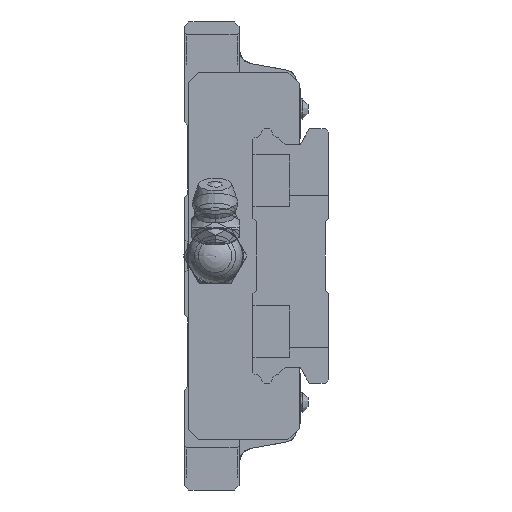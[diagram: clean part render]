
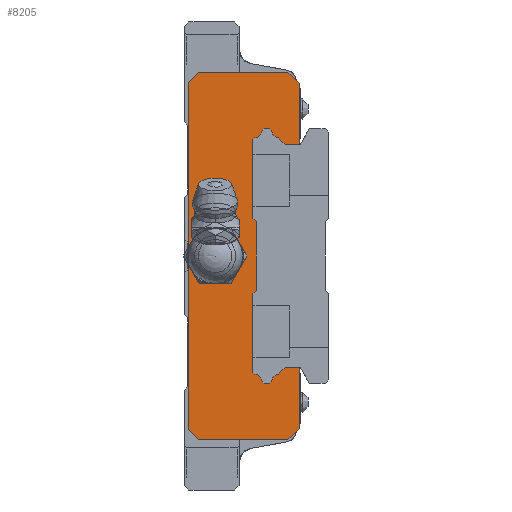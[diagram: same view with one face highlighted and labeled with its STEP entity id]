
A CAD part, left-side view. The second image highlights one B-rep face of the part: STEP entity #8205.
In plain terms, the highlighted planar face has unit normal (-1, 0, 0).
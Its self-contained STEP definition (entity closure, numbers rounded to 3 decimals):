
#85=LINE('',#12820,#483);
#91=LINE('',#12833,#489);
#98=LINE('',#12849,#496);
#99=LINE('',#12851,#497);
#100=LINE('',#12853,#498);
#101=LINE('',#12855,#499);
#102=LINE('',#12857,#500);
#103=LINE('',#12859,#501);
#104=LINE('',#12861,#502);
#105=LINE('',#12863,#503);
#106=LINE('',#12864,#504);
#107=LINE('',#12866,#505);
#108=LINE('',#12870,#506);
#109=LINE('',#12872,#507);
#110=LINE('',#12874,#508);
#111=LINE('',#12878,#509);
#112=LINE('',#12880,#510);
#113=LINE('',#12882,#511);
#114=LINE('',#12884,#512);
#115=LINE('',#12886,#513);
#116=LINE('',#12888,#514);
#117=LINE('',#12890,#515);
#118=LINE('',#12894,#516);
#119=LINE('',#12896,#517);
#120=LINE('',#12898,#518);
#121=LINE('',#12902,#519);
#483=VECTOR('',#10054,1000.);
#489=VECTOR('',#10062,1000.);
#496=VECTOR('',#10073,1000.);
#497=VECTOR('',#10074,1000.);
#498=VECTOR('',#10075,1000.);
#499=VECTOR('',#10076,1000.);
#500=VECTOR('',#10077,1000.);
#501=VECTOR('',#10078,1000.);
#502=VECTOR('',#10079,1000.);
#503=VECTOR('',#10080,1000.);
#504=VECTOR('',#10081,1000.);
#505=VECTOR('',#10082,1000.);
#506=VECTOR('',#10085,1000.);
#507=VECTOR('',#10086,1000.);
#508=VECTOR('',#10087,1000.);
#509=VECTOR('',#10090,1000.);
#510=VECTOR('',#10091,1000.);
#511=VECTOR('',#10092,1000.);
#512=VECTOR('',#10093,1000.);
#513=VECTOR('',#10094,1000.);
#514=VECTOR('',#10095,1000.);
#515=VECTOR('',#10096,1000.);
#516=VECTOR('',#10099,1000.);
#517=VECTOR('',#10100,1000.);
#518=VECTOR('',#10101,1000.);
#519=VECTOR('',#10104,1000.);
#864=PLANE('',#8827);
#1405=CIRCLE('',#8828,3.);
#1406=CIRCLE('',#8829,1.19);
#1407=CIRCLE('',#8830,1.19);
#1408=CIRCLE('',#8831,1.19);
#1409=CIRCLE('',#8832,1.19);
#2107=ORIENTED_EDGE('',*,*,#4013,.T.);
#2108=ORIENTED_EDGE('',*,*,#4014,.T.);
#2109=ORIENTED_EDGE('',*,*,#4000,.F.);
#2110=ORIENTED_EDGE('',*,*,#4015,.F.);
#2111=ORIENTED_EDGE('',*,*,#4016,.F.);
#2112=ORIENTED_EDGE('',*,*,#4017,.F.);
#2113=ORIENTED_EDGE('',*,*,#4018,.F.);
#2114=ORIENTED_EDGE('',*,*,#4019,.F.);
#2115=ORIENTED_EDGE('',*,*,#4020,.F.);
#2116=ORIENTED_EDGE('',*,*,#4021,.F.);
#2117=ORIENTED_EDGE('',*,*,#4006,.F.);
#2118=ORIENTED_EDGE('',*,*,#4022,.T.);
#2119=ORIENTED_EDGE('',*,*,#4023,.T.);
#2120=ORIENTED_EDGE('',*,*,#4024,.F.);
#2121=ORIENTED_EDGE('',*,*,#4025,.T.);
#2122=ORIENTED_EDGE('',*,*,#4026,.T.);
#2123=ORIENTED_EDGE('',*,*,#4027,.T.);
#2124=ORIENTED_EDGE('',*,*,#4028,.F.);
#2125=ORIENTED_EDGE('',*,*,#4029,.T.);
#2126=ORIENTED_EDGE('',*,*,#4030,.T.);
#2127=ORIENTED_EDGE('',*,*,#4031,.T.);
#2128=ORIENTED_EDGE('',*,*,#4032,.T.);
#2129=ORIENTED_EDGE('',*,*,#4033,.T.);
#2130=ORIENTED_EDGE('',*,*,#4034,.T.);
#2131=ORIENTED_EDGE('',*,*,#4035,.T.);
#2132=ORIENTED_EDGE('',*,*,#4036,.F.);
#2133=ORIENTED_EDGE('',*,*,#4037,.T.);
#2134=ORIENTED_EDGE('',*,*,#4038,.T.);
#2135=ORIENTED_EDGE('',*,*,#4039,.T.);
#2136=ORIENTED_EDGE('',*,*,#4040,.F.);
#2137=ORIENTED_EDGE('',*,*,#4041,.T.);
#4000=EDGE_CURVE('',#4967,#4961,#85,.T.);
#4006=EDGE_CURVE('',#4972,#4974,#91,.T.);
#4013=EDGE_CURVE('',#4980,#4980,#1405,.T.);
#4014=EDGE_CURVE('',#4981,#4961,#98,.T.);
#4015=EDGE_CURVE('',#4982,#4967,#99,.T.);
#4016=EDGE_CURVE('',#4983,#4982,#100,.T.);
#4017=EDGE_CURVE('',#4984,#4983,#101,.T.);
#4018=EDGE_CURVE('',#4985,#4984,#102,.T.);
#4019=EDGE_CURVE('',#4986,#4985,#103,.T.);
#4020=EDGE_CURVE('',#4987,#4986,#104,.T.);
#4021=EDGE_CURVE('',#4974,#4987,#105,.T.);
#4022=EDGE_CURVE('',#4972,#4988,#106,.T.);
#4023=EDGE_CURVE('',#4988,#4989,#107,.T.);
#4024=EDGE_CURVE('',#4990,#4989,#1406,.T.);
#4025=EDGE_CURVE('',#4990,#4991,#108,.T.);
#4026=EDGE_CURVE('',#4991,#4992,#109,.T.);
#4027=EDGE_CURVE('',#4992,#4993,#110,.T.);
#4028=EDGE_CURVE('',#4994,#4993,#1407,.T.);
#4029=EDGE_CURVE('',#4994,#4995,#111,.T.);
#4030=EDGE_CURVE('',#4995,#4996,#112,.T.);
#4031=EDGE_CURVE('',#4996,#4997,#113,.T.);
#4032=EDGE_CURVE('',#4997,#4998,#114,.T.);
#4033=EDGE_CURVE('',#4998,#4999,#115,.T.);
#4034=EDGE_CURVE('',#4999,#5000,#116,.T.);
#4035=EDGE_CURVE('',#5000,#5001,#117,.T.);
#4036=EDGE_CURVE('',#5002,#5001,#1408,.T.);
#4037=EDGE_CURVE('',#5002,#5003,#118,.T.);
#4038=EDGE_CURVE('',#5003,#5004,#119,.T.);
#4039=EDGE_CURVE('',#5004,#5005,#120,.T.);
#4040=EDGE_CURVE('',#5006,#5005,#1409,.T.);
#4041=EDGE_CURVE('',#5006,#4981,#121,.T.);
#4961=VERTEX_POINT('',#12807);
#4967=VERTEX_POINT('',#12819);
#4972=VERTEX_POINT('',#12831);
#4974=VERTEX_POINT('',#12834);
#4980=VERTEX_POINT('',#12848);
#4981=VERTEX_POINT('',#12850);
#4982=VERTEX_POINT('',#12852);
#4983=VERTEX_POINT('',#12854);
#4984=VERTEX_POINT('',#12856);
#4985=VERTEX_POINT('',#12858);
#4986=VERTEX_POINT('',#12860);
#4987=VERTEX_POINT('',#12862);
#4988=VERTEX_POINT('',#12865);
#4989=VERTEX_POINT('',#12867);
#4990=VERTEX_POINT('',#12869);
#4991=VERTEX_POINT('',#12871);
#4992=VERTEX_POINT('',#12873);
#4993=VERTEX_POINT('',#12875);
#4994=VERTEX_POINT('',#12877);
#4995=VERTEX_POINT('',#12879);
#4996=VERTEX_POINT('',#12881);
#4997=VERTEX_POINT('',#12883);
#4998=VERTEX_POINT('',#12885);
#4999=VERTEX_POINT('',#12887);
#5000=VERTEX_POINT('',#12889);
#5001=VERTEX_POINT('',#12891);
#5002=VERTEX_POINT('',#12893);
#5003=VERTEX_POINT('',#12895);
#5004=VERTEX_POINT('',#12897);
#5005=VERTEX_POINT('',#12899);
#5006=VERTEX_POINT('',#12901);
#5821=EDGE_LOOP('',(#2107));
#5822=EDGE_LOOP('',(#2108,#2109,#2110,#2111,#2112,#2113,#2114,#2115,#2116,
#2117,#2118,#2119,#2120,#2121,#2122,#2123,#2124,#2125,#2126,#2127,#2128,
#2129,#2130,#2131,#2132,#2133,#2134,#2135,#2136,#2137));
#7006=FACE_BOUND('',#5821,.T.);
#7007=FACE_BOUND('',#5822,.T.);
#8205=ADVANCED_FACE('',(#7006,#7007),#864,.F.);
#8827=AXIS2_PLACEMENT_3D('',#12846,#10069,#10070);
#8828=AXIS2_PLACEMENT_3D('',#12847,#10071,#10072);
#8829=AXIS2_PLACEMENT_3D('',#12868,#10083,#10084);
#8830=AXIS2_PLACEMENT_3D('',#12876,#10088,#10089);
#8831=AXIS2_PLACEMENT_3D('',#12892,#10097,#10098);
#8832=AXIS2_PLACEMENT_3D('',#12900,#10102,#10103);
#10054=DIRECTION('',(0.,0.,-1.));
#10062=DIRECTION('',(0.,0.,-1.));
#10069=DIRECTION('',(1.,0.,0.));
#10070=DIRECTION('',(0.,0.,-1.));
#10071=DIRECTION('',(1.,0.,0.));
#10072=DIRECTION('',(0.,0.,-1.));
#10073=DIRECTION('',(0.,-1.,0.));
#10074=DIRECTION('',(0.,-0.707,-0.707));
#10075=DIRECTION('',(0.,-1.,0.));
#10076=DIRECTION('',(0.,-0.707,0.707));
#10077=DIRECTION('',(0.,0.,1.));
#10078=DIRECTION('',(0.,0.707,0.707));
#10079=DIRECTION('',(0.,1.,0.));
#10080=DIRECTION('',(0.,0.707,-0.707));
#10081=DIRECTION('',(0.,1.,0.));
#10082=DIRECTION('',(0.,0.707,-0.707));
#10083=DIRECTION('',(1.,0.,0.));
#10084=DIRECTION('',(0.,0.,-1.));
#10085=DIRECTION('',(0.,0.707,-0.707));
#10086=DIRECTION('',(0.,1.,0.));
#10087=DIRECTION('',(0.,0.707,0.707));
#10088=DIRECTION('',(1.,0.,0.));
#10089=DIRECTION('',(0.,0.,-1.));
#10090=DIRECTION('',(0.,0.707,0.707));
#10091=DIRECTION('',(0.,0.,1.));
#10092=DIRECTION('',(0.,-0.707,0.707));
#10093=DIRECTION('',(0.,0.,1.));
#10094=DIRECTION('',(0.,0.707,0.707));
#10095=DIRECTION('',(0.,0.,1.));
#10096=DIRECTION('',(0.,-0.707,0.707));
#10097=DIRECTION('',(1.,0.,0.));
#10098=DIRECTION('',(0.,0.,-1.));
#10099=DIRECTION('',(0.,-0.707,0.707));
#10100=DIRECTION('',(0.,-1.,0.));
#10101=DIRECTION('',(0.,-0.707,-0.707));
#10102=DIRECTION('',(1.,0.,0.));
#10103=DIRECTION('',(0.,0.,-1.));
#10104=DIRECTION('',(0.,-0.707,-0.707));
#12807=CARTESIAN_POINT('',(-28.6,1.31,16.2));
#12819=CARTESIAN_POINT('',(-28.6,1.31,25.04));
#12820=CARTESIAN_POINT('',(-28.6,1.31,25.04));
#12831=CARTESIAN_POINT('',(-28.6,1.31,-16.2));
#12833=CARTESIAN_POINT('',(-28.6,1.31,25.04));
#12834=CARTESIAN_POINT('',(-28.6,1.31,-25.04));
#12846=CARTESIAN_POINT('',(-28.6,0.,0.));
#12847=CARTESIAN_POINT('',(-28.6,13.5,0.));
#12848=CARTESIAN_POINT('',(-28.6,13.5,-3.));
#12849=CARTESIAN_POINT('',(-28.6,3.32,16.2));
#12850=CARTESIAN_POINT('',(-28.6,3.32,16.2));
#12851=CARTESIAN_POINT('',(-28.6,2.91,26.64));
#12852=CARTESIAN_POINT('',(-28.6,2.91,26.64));
#12853=CARTESIAN_POINT('',(-28.6,15.85,26.64));
#12854=CARTESIAN_POINT('',(-28.6,15.85,26.64));
#12855=CARTESIAN_POINT('',(-28.6,17.35,25.14));
#12856=CARTESIAN_POINT('',(-28.6,17.35,25.14));
#12857=CARTESIAN_POINT('',(-28.6,17.35,-25.14));
#12858=CARTESIAN_POINT('',(-28.6,17.35,-25.14));
#12859=CARTESIAN_POINT('',(-28.6,15.85,-26.64));
#12860=CARTESIAN_POINT('',(-28.6,15.85,-26.64));
#12861=CARTESIAN_POINT('',(-28.6,2.91,-26.64));
#12862=CARTESIAN_POINT('',(-28.6,2.91,-26.64));
#12863=CARTESIAN_POINT('',(-28.6,1.31,-25.04));
#12864=CARTESIAN_POINT('',(-28.6,1.117,-16.2));
#12865=CARTESIAN_POINT('',(-28.6,3.32,-16.2));
#12866=CARTESIAN_POINT('',(-28.6,3.32,-16.2));
#12867=CARTESIAN_POINT('',(-28.6,4.276,-17.156));
#12868=CARTESIAN_POINT('',(-28.6,4.153,-18.34));
#12869=CARTESIAN_POINT('',(-28.6,5.337,-18.217));
#12870=CARTESIAN_POINT('',(-28.6,5.337,-18.217));
#12871=CARTESIAN_POINT('',(-28.6,5.62,-18.5));
#12872=CARTESIAN_POINT('',(-28.6,5.62,-18.5));
#12873=CARTESIAN_POINT('',(-28.6,6.385,-18.5));
#12874=CARTESIAN_POINT('',(-28.6,6.385,-18.5));
#12875=CARTESIAN_POINT('',(-28.6,6.663,-18.222));
#12876=CARTESIAN_POINT('',(-28.6,7.847,-18.34));
#12877=CARTESIAN_POINT('',(-28.6,7.729,-17.156));
#12878=CARTESIAN_POINT('',(-28.6,7.729,-17.156));
#12879=CARTESIAN_POINT('',(-28.6,8.,-16.885));
#12880=CARTESIAN_POINT('',(-28.6,8.,-16.885));
#12881=CARTESIAN_POINT('',(-28.6,8.,-5.5));
#12882=CARTESIAN_POINT('',(-28.6,8.,-5.5));
#12883=CARTESIAN_POINT('',(-28.6,7.5,-5.));
#12884=CARTESIAN_POINT('',(-28.6,7.5,-5.));
#12885=CARTESIAN_POINT('',(-28.6,7.5,5.));
#12886=CARTESIAN_POINT('',(-28.6,7.5,5.));
#12887=CARTESIAN_POINT('',(-28.6,8.,5.5));
#12888=CARTESIAN_POINT('',(-28.6,8.,5.5));
#12889=CARTESIAN_POINT('',(-28.6,8.,16.885));
#12890=CARTESIAN_POINT('',(-28.6,8.,16.885));
#12891=CARTESIAN_POINT('',(-28.6,7.729,17.156));
#12892=CARTESIAN_POINT('',(-28.6,7.847,18.34));
#12893=CARTESIAN_POINT('',(-28.6,6.663,18.222));
#12894=CARTESIAN_POINT('',(-28.6,6.663,18.222));
#12895=CARTESIAN_POINT('',(-28.6,6.385,18.5));
#12896=CARTESIAN_POINT('',(-28.6,6.385,18.5));
#12897=CARTESIAN_POINT('',(-28.6,5.62,18.5));
#12898=CARTESIAN_POINT('',(-28.6,5.62,18.5));
#12899=CARTESIAN_POINT('',(-28.6,5.337,18.217));
#12900=CARTESIAN_POINT('',(-28.6,4.153,18.34));
#12901=CARTESIAN_POINT('',(-28.6,4.276,17.156));
#12902=CARTESIAN_POINT('',(-28.6,4.276,17.156));
